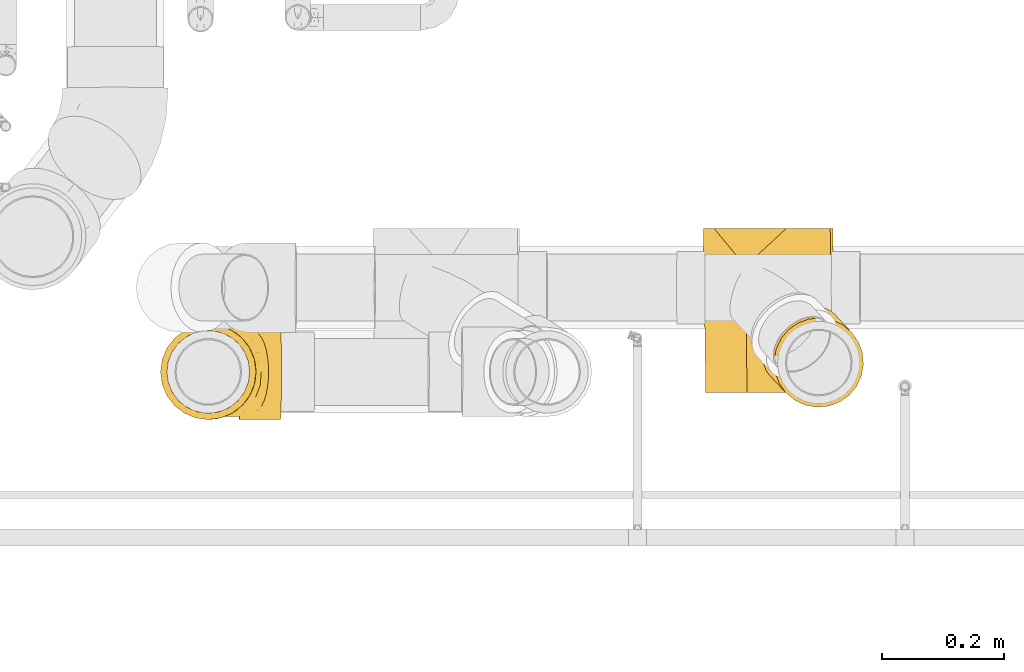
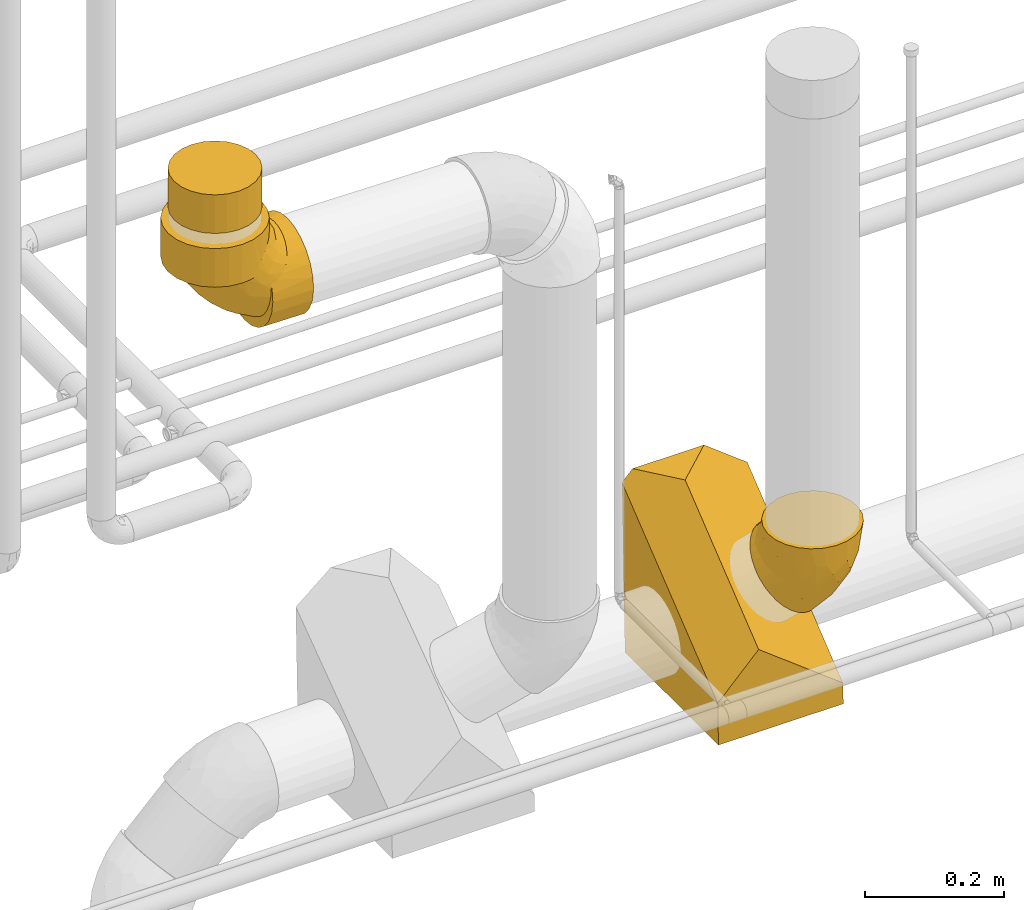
# One storey, part 17 of 156: 4 coverings.
"""IFC2X3 building model written with IfcOpenShell, lengths in millimetres."""

from ifc_helpers import new_model, entity, si_unit, converted_unit, derived_unit, direction, frame, origin_with_axes, place, context, subcontext, project, spatial, open_shell, surface_model, source, transform, mapped, element, save


model = new_model("IFC2X3")

# Units and contexts
model_context = context("Model", 3, precision=0.01, world=frame((0.0, 4.29681676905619e-09, 0.0)), true_north=direction((4.01073788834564e-13, 1.0)))
plan_context = context("Plan", 3, precision=0.01, world=frame((0.0, 4.29681676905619e-09, 0.0)), true_north=direction((4.01073788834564e-13, 1.0)))
body_context = subcontext(model_context, "Body", "Model", "MODEL_VIEW")
ifc_project = project(units=[converted_unit("PLANEANGLEUNIT", "DEGREE", entity("IfcPositiveLengthMeasure", 0.0174532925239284), si_unit("PLANEANGLEUNIT", "RADIAN"), dimensions=[0, 0, 0, 0, 0, 0, 0]), si_unit("AREAUNIT", "SQUARE_METRE"), si_unit("LENGTHUNIT", "METRE", prefix="MILLI"), si_unit("MASSUNIT", "GRAM", prefix="KILO"), si_unit("POWERUNIT", "WATT"), si_unit("PRESSUREUNIT", "PASCAL", prefix="KILO"), si_unit("FORCEUNIT", "NEWTON", prefix="KILO"), si_unit("ELECTRICVOLTAGEUNIT", "VOLT"), si_unit("ELECTRICCURRENTUNIT", "AMPERE"), si_unit("THERMODYNAMICTEMPERATUREUNIT", "DEGREE_CELSIUS"), si_unit("TIMEUNIT", "SECOND"), si_unit("VOLUMEUNIT", "CUBIC_METRE"), derived_unit("LINEARVELOCITYUNIT", [(si_unit("LENGTHUNIT", "METRE"), 1), (si_unit("TIMEUNIT", "SECOND"), -1)]), derived_unit("VOLUMETRICFLOWRATEUNIT", [(si_unit("VOLUMEUNIT", "CUBIC_METRE"), 1), (si_unit("TIMEUNIT", "SECOND"), -1)]), derived_unit("THERMALTRANSMITTANCEUNIT", [(si_unit("POWERUNIT", "WATT"), 1), (si_unit("THERMODYNAMICTEMPERATUREUNIT", "KELVIN"), -1), (si_unit("AREAUNIT", "SQUARE_METRE"), -1)]), derived_unit("SOUNDPRESSUREUNIT", [(si_unit("PRESSUREUNIT", "PASCAL"), 1)])], contexts=[model_context, plan_context])

# Site, building, storey
site_placement = place(None, frame((0.0, -4.29681676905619e-09, 0.0), z_axis=(0.0, 0.0, 1.0), x_axis=(1.0, 0.0, 0.0)))
site = spatial("IfcSite", under=ifc_project, at=site_placement, CompositionType="ELEMENT")
building_placement = place(site_placement, frame((0.0, 4.29681676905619e-09, 0.0), z_axis=(0.0, 0.0, 1.0), x_axis=(1.0, 0.0, 0.0)))
building = spatial("IfcBuilding", under=site, at=building_placement, Name="mc-building", CompositionType="ELEMENT")
storey_placement = place(building_placement, frame((0.0, 0.0, 205200.0), z_axis=(0.0, 0.0, 1.0), x_axis=(1.0, 0.0, 0.0)))
storey = spatial("IfcBuildingStorey", under=building, at=storey_placement, Name="Nivå D + 1,2 m", CompositionType="ELEMENT", Elevation=205200.0)

# Coverings
shared_shape_1 = source(origin_with_axes(), body_context, "Body", "SurfaceModel", [
    surface_model("IfcShellBasedSurfaceModel", [(-17.91303, 88.62571, 14.34271), (-14.77637, 85.85619, 28.13327), (5.52157, 67.93403, 61.11944), (-17.91542, 88.62782, -14.32665), (-18.97223, 89.56094, 0.0), (-2.82927, 75.30744, 51.97971), (-9.68312, 81.35908, 40.8417), (15.04837, 59.5223, 67.90986), (25.38495, 50.39557, 72.0902), (-2.84032, 75.3172, -51.96498), (-14.78178, 85.86096, -28.11586), (-9.69159, 81.36655, -40.82479), (5.5089, 67.94522, -61.10815), (15.03532, 59.53383, -67.90265), (36.12441, 40.91312, -73.5), (25.37291, 50.4062, -72.08701), (36.12441, 40.91312, 73.5), (46.87591, 31.42004, 72.08701), (57.21351, 22.29241, 67.90265), (66.73993, 13.88102, 61.10815), (87.0252, -4.02994, -28.13327), (81.94042, 0.45969, 40.82479), (90.16425, -6.80158, 14.32665), (87.03061, -4.03472, 28.11586), (75.08914, 6.50905, 51.96498), (75.0781, 6.5188, -51.97971), (66.72725, 13.89221, -61.11944), (57.20046, 22.30394, -67.90986), (46.86388, 31.43066, -72.0902), (91.22106, -7.73469, 0.0), (90.16186, -6.79947, -14.34271), (81.93194, 0.46716, -40.8417), (-54.5789, 70.99555, -19.0232), (-54.5789, 63.65287, 36.75), (-54.5789, 73.5, 0.0), (-54.5789, 51.97235, -51.97235), (-54.5789, 63.65287, -36.75), (-54.5789, 36.75, -63.65287), (-54.5789, 19.0232, 70.99555), (-54.5789, 19.0232, -70.99555), (-54.5789, 51.97235, 51.97235), (-54.5789, 70.99555, 19.0232), (-54.5789, 36.75, 63.65287), (-54.5789, 0.0, 73.5), (-54.5789, 0.0, -73.5), (-54.5789, -19.0232, -70.99555), (-54.5789, -36.75, -63.65287), (-54.5789, -73.5, 0.0), (-54.5789, -63.65287, -36.75), (-54.5789, -51.97235, -51.97235), (-54.5789, -70.99555, -19.0232), (-54.5789, -36.75, 63.65287), (-54.5789, -19.0232, 70.99555), (-54.5789, -51.97235, 51.97235), (-54.5789, -63.65287, 36.75), (-54.5789, -70.99555, 19.0232), (-13.67785, -69.15087, 0.0), (4.72805, -60.84875, 21.53178), (25.39407, -56.29798, 0.0), (54.59802, -36.5032, 20.29491), (3.06845, -6.80267, 70.94726), (41.57613, -3.48232, 63.91355), (43.66547, -16.74805, 55.49436), (53.04571, -24.43077, 42.5614), (-20.85007, 4.79602, 73.5), (19.36549, -42.93945, 44.04108), (1.05044, -56.20834, 34.80883), (34.35622, -43.77999, 31.83427), (-21.49455, -26.52926, 67.01198), (-17.35994, -42.15596, 57.04541), (13.75027, -22.74714, 62.81731), (15.7281, -34.20014, 54.43922), (-18.84172, -54.42232, 45.11417), (60.8895, -35.51613, 0.0), (10.20498, 18.80387, 73.5), (-33.25769, 16.43137, 72.09949), (-29.05396, 31.7037, 67.90515), (-17.36496, 68.69842, 46.63532), (-8.60966, 63.96884, 55.87748), (-11.53695, 21.04185, 72.48566), (-27.01023, 83.63097, 0.0), (-25.20525, 79.71721, 21.34079), (-23.99679, 53.19729, 56.82324), (-39.96059, 46.15825, 58.31147), (-44.83668, 68.80659, 28.12723), (-45.81941, 72.76361, 14.89597), (-36.93099, 74.40101, 18.35532), (-29.38666, 70.78235, 34.6544), (-39.5063, 60.15045, 44.74396), (-6.57642, 52.51736, 63.29133), (-0.79585, 37.0792, 70.33875), (-35.04823, 77.70101, 0.0), (-44.81357, 75.6005, 0.0), (-19.80676, 76.87131, 34.65411), (-27.77441, 62.33927, 47.00423), (-29.06879, 31.69947, -67.90515), (-39.95763, 46.15882, -58.31147), (-45.81626, 72.76561, -14.88919), (-36.9234, 74.40668, -18.3452), (-44.82913, 68.808, -28.12723), (-19.70369, 76.96418, -34.6373), (-17.37194, 68.70948, -46.61941), (-39.5002, 60.15196, -44.74397), (-24.00111, 53.2128, -56.81019), (-6.58427, 52.52835, -63.28336), (-35.45277, 14.09772, -72.44642), (-29.39013, 70.79095, -34.63712), (-28.02625, 63.13688, -45.98809), (-25.2076, 79.72181, -21.32394), (-13.37856, 60.5597, -55.78844), (-0.82541, 37.08028, -70.33364), (-15.56538, 21.80912, -72.07308), (10.20498, 18.80387, -73.5), (-20.85007, 4.79602, -73.5), (-22.48751, -26.68408, -67.04028), (-20.56988, -40.14357, -59.10289), (-1.17666, -45.99613, -49.50599), (35.07488, -22.11202, -55.76926), (46.7154, -26.57184, -45.1578), (3.08591, -6.84139, -70.93575), (40.63643, -4.26631, -63.88469), (11.74576, -23.80159, -62.75166), (23.55066, -48.88864, -32.36007), (56.42543, -35.19711, -20.36162), (5.27422, -62.02525, -16.76124), (62.32064, -24.053, -33.74605), (-15.18099, -62.31262, -31.30801)], [open_shell([[[0, 1, 2]], [[0, 3, 4]], [[5, 1, 6]], [[7, 8, 2]], [[2, 8, 0]], [[1, 5, 2]], [[9, 0, 8]], [[10, 3, 11]], [[9, 11, 3]], [[0, 9, 3]], [[12, 9, 13]], [[14, 15, 13]], [[9, 14, 13]], [[8, 14, 9]], [[8, 16, 14]], [[16, 17, 18]], [[18, 19, 16]], [[20, 16, 19]], [[21, 22, 19]], [[23, 22, 21]], [[21, 19, 24]], [[20, 19, 22]], [[25, 26, 27]], [[27, 28, 25]], [[25, 28, 20]], [[29, 30, 20]], [[31, 25, 20]], [[28, 16, 20]], [[22, 29, 20]], [[16, 28, 14]], [[32, 33, 34]], [[35, 32, 36]], [[33, 35, 37]], [[32, 35, 33]], [[38, 37, 39]], [[33, 38, 40]], [[33, 41, 34]], [[40, 38, 42]], [[37, 38, 33]], [[39, 43, 38]], [[39, 44, 43]], [[44, 45, 46]], [[47, 44, 46]], [[47, 46, 48]], [[48, 46, 49]], [[47, 48, 50]], [[43, 51, 52]], [[53, 51, 43]], [[54, 47, 55]], [[47, 54, 53]], [[44, 47, 53]], [[53, 43, 44]], [[55, 56, 57]], [[55, 47, 56]], [[58, 57, 56]], [[58, 59, 57]], [[17, 60, 61]], [[24, 62, 63]], [[23, 21, 63]], [[52, 60, 64]], [[65, 66, 67]], [[68, 69, 70]], [[52, 64, 43]], [[68, 60, 52]], [[69, 51, 53]], [[71, 62, 70]], [[51, 68, 52]], [[66, 65, 72]], [[73, 59, 58]], [[70, 61, 60]], [[19, 61, 62]], [[63, 67, 59]], [[22, 23, 59]], [[22, 73, 29]], [[60, 68, 70]], [[69, 68, 51]], [[65, 71, 72]], [[66, 54, 57]], [[74, 17, 16]], [[60, 74, 64]], [[61, 18, 17]], [[54, 55, 57]], [[60, 17, 74]], [[62, 24, 19]], [[62, 71, 65]], [[72, 69, 53]], [[19, 18, 61]], [[62, 61, 70]], [[53, 54, 72]], [[59, 73, 22]], [[54, 66, 72]], [[63, 65, 67]], [[67, 57, 59]], [[57, 67, 66]], [[59, 23, 63]], [[24, 63, 21]], [[62, 65, 63]], [[70, 69, 71]], [[72, 71, 69]], [[75, 76, 38]], [[43, 64, 75]], [[5, 77, 78]], [[76, 75, 79]], [[0, 80, 81]], [[76, 82, 83]], [[41, 84, 85]], [[34, 41, 85]], [[81, 86, 87]], [[88, 33, 40]], [[87, 86, 84]], [[86, 85, 84]], [[82, 89, 78]], [[76, 90, 89]], [[90, 79, 74]], [[86, 91, 92]], [[1, 93, 6]], [[89, 90, 7]], [[8, 7, 90]], [[8, 74, 16]], [[43, 75, 38]], [[38, 76, 42]], [[77, 94, 82]], [[89, 7, 2]], [[77, 5, 6]], [[40, 42, 83]], [[81, 91, 86]], [[94, 87, 88]], [[83, 88, 40]], [[77, 93, 87]], [[1, 0, 81]], [[81, 87, 93]], [[76, 83, 42]], [[90, 74, 8]], [[88, 83, 82]], [[84, 41, 33]], [[33, 88, 84]], [[87, 84, 88]], [[86, 92, 85]], [[34, 85, 92]], [[6, 93, 77]], [[1, 81, 93]], [[2, 5, 78]], [[76, 89, 82]], [[80, 0, 4]], [[80, 91, 81]], [[79, 75, 64]], [[74, 79, 64]], [[76, 79, 90]], [[87, 94, 77]], [[88, 82, 94]], [[82, 78, 77]], [[2, 78, 89]], [[95, 37, 96]], [[97, 98, 99]], [[100, 11, 101]], [[80, 4, 3]], [[96, 102, 103]], [[13, 104, 12]], [[39, 105, 44]], [[106, 102, 99]], [[39, 37, 95]], [[97, 99, 32]], [[96, 37, 35]], [[103, 104, 95]], [[106, 107, 102]], [[98, 108, 106]], [[3, 10, 108]], [[97, 34, 92]], [[109, 9, 12]], [[13, 110, 104]], [[10, 11, 100]], [[11, 9, 101]], [[36, 102, 35]], [[99, 36, 32]], [[100, 106, 108]], [[109, 12, 104]], [[111, 105, 95]], [[110, 13, 15]], [[15, 14, 112]], [[98, 91, 108]], [[107, 106, 101]], [[112, 110, 15]], [[111, 112, 113]], [[111, 95, 110]], [[102, 96, 35]], [[3, 108, 80]], [[95, 96, 103]], [[106, 99, 98]], [[92, 91, 98]], [[102, 36, 99]], [[34, 97, 32]], [[92, 98, 97]], [[106, 100, 101]], [[10, 100, 108]], [[95, 104, 110]], [[109, 104, 103]], [[108, 91, 80]], [[112, 111, 110]], [[105, 111, 113]], [[44, 105, 113]], [[95, 105, 39]], [[109, 107, 101]], [[103, 102, 107]], [[107, 109, 103]], [[9, 109, 101]], [[46, 114, 115]], [[116, 117, 118]], [[45, 44, 113]], [[119, 120, 121]], [[28, 119, 112]], [[113, 119, 45]], [[117, 120, 26]], [[117, 116, 121]], [[47, 50, 56]], [[119, 114, 45]], [[122, 123, 124]], [[125, 20, 123]], [[116, 48, 49]], [[126, 122, 124]], [[116, 126, 48]], [[45, 114, 46]], [[119, 113, 112]], [[50, 126, 124]], [[112, 14, 28]], [[118, 117, 25]], [[26, 120, 27]], [[56, 50, 124]], [[115, 49, 46]], [[119, 28, 120]], [[126, 50, 48]], [[118, 25, 31]], [[20, 30, 123]], [[125, 118, 31]], [[117, 121, 120]], [[58, 124, 123]], [[30, 29, 73]], [[58, 123, 73]], [[30, 73, 123]], [[122, 118, 125]], [[116, 118, 122]], [[58, 56, 124]], [[116, 122, 126]], [[27, 120, 28]], [[26, 25, 117]], [[119, 121, 114]], [[115, 121, 116]], [[121, 115, 114]], [[49, 115, 116]], [[20, 125, 31]], [[122, 125, 123]]])]),
])
covering_1_placement = place(storey_placement, frame((325465.89291, 462601.38941, 4323.45942999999), z_axis=(0.732870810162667, 0.680367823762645, 0.0), x_axis=(0.0, 0.0, -1.0)))
element("IfcCovering", 1, at=covering_1_placement, inside=storey, Name="BI17T - Cellegummi 13 mm SPV fett", PredefinedType="INSULATION", context=body_context, shape_type="MappedRepresentation", body=[
    mapped(shared_shape_1, transform((0.0, 0.0, 0.0), scale=1.0)),
])
shared_shape_2 = source(origin_with_axes(), body_context, "Body", "SurfaceModel", [
    surface_model("IfcShellBasedSurfaceModel", [(-71.94654, -92.21569, 204.98934), (-71.94654, -92.21569, -147.39441), (-2.63553, -145.71314, -102.40648), (-2.63553, -145.71314, 168.00766), (-54.09778, -105.99219, 216.5745), (136.02815, -61.08077, 178.80685), (64.93187, -104.47386, 215.29769), (136.02815, -61.08077, -173.57691), (136.02815, 140.67473, 9.14336), (136.02815, -32.90589, -197.27017), (-71.94654, 138.02183, 11.37427), (-71.94654, -35.55879, -195.03926)], [open_shell([[[0, 1, 2]], [[0, 3, 4]], [[3, 0, 2]], [[3, 2, 5]], [[3, 5, 6]], [[5, 2, 7]], [[5, 7, 8]], [[9, 8, 7]], [[6, 0, 4]], [[0, 6, 5]], [[5, 8, 10]], [[5, 10, 0]], [[4, 3, 6]], [[2, 1, 7]], [[7, 11, 9]], [[11, 7, 1]], [[8, 9, 10]], [[11, 10, 9]], [[1, 0, 10]], [[10, 11, 1]]])]),
])
covering_2_placement = place(storey_placement, frame((325351.36301, 462724.75736, 4174.82712), z_axis=(-0.0107249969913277, 0.765351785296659, 0.643522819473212), x_axis=(0.999861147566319, -1.20961537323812e-07, 0.0166639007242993)))
element("IfcCovering", 2, at=covering_2_placement, inside=storey, Name="BI17T - Cellegummi 13 mm SPV fett", PredefinedType="INSULATION", context=body_context, shape_type="MappedRepresentation", body=[
    mapped(shared_shape_2, transform((0.0, 0.0, 0.0), scale=1.0)),
])
shared_shape_3 = source(origin_with_axes(), body_context, "Body", "SurfaceModel", [
    surface_model("IfcShellBasedSurfaceModel", [(-51.00014, 0.0, -78.5), (-51.00014, 14.36508, -77.17444), (-51.00014, 5.6383, -72.35703), (-51.00014, 20.91504, -73.5), (-51.00014, 24.56162, -73.43881), (-51.00014, -9.27174, -68.76607), (-51.00014, -20.31729, -75.82518), (-51.00014, 28.2042, -73.25826), (-51.00014, -23.31083, -62.59185), (-51.00014, -39.25, -67.983), (-51.00014, -35.91477, -53.8583), (-51.00014, -55.50788, -55.50788), (-51.00014, -46.49952, -42.76725), (-51.00014, -67.983, -39.25), (-51.00014, -54.51871, -29.70312), (-51.00014, -59.52523, -15.21649), (-51.00014, -75.82518, -20.31729), (-51.00014, -78.5, 0.0), (-51.00014, -61.22582, 0.0), (-51.00014, -23.31083, 62.59185), (-51.00014, -9.27174, 68.76607), (-51.00014, -20.31729, 75.82518), (-51.00014, 5.6383, 72.35703), (-51.00014, 0.0, 78.5), (-51.00014, 20.91504, 73.5), (-51.00014, 24.56162, 73.43881), (-51.00014, 14.36508, 77.17444), (-51.00014, 28.2042, 73.25826), (-51.00014, -39.25, 67.983), (-51.00014, -59.52523, 15.21649), (-51.00014, -54.51871, 29.70312), (-51.00014, -75.82518, 20.31729), (-51.00014, -67.983, 39.25), (-51.00014, -35.91477, 53.8583), (-51.00014, -55.50788, 55.50788), (-51.00014, -46.49952, 42.76725), (-119.00014, 20.31729, 75.82518), (-119.00014, -20.31729, 75.82518), (-119.00014, 0.0, 78.5), (-119.00014, 55.50788, 55.50788), (-119.00014, 39.25, 67.983), (-119.00014, 67.983, 39.25), (-119.00014, 75.82518, 20.31729), (-119.00014, -39.25, 67.983), (-119.00014, -78.5, 0.0), (-119.00014, -55.50788, 55.50788), (-119.00014, -75.82518, 20.31729), (-119.00014, -67.983, 39.25), (-119.00014, 78.5, 0.0), (-119.00014, -67.983, -39.25), (-119.00014, 75.82518, -20.31729), (-119.00014, 39.25, -67.983), (-119.00014, 67.983, -39.25), (-119.00014, 20.31729, -75.82518), (-119.00014, 55.50788, -55.50788), (-119.00014, -39.25, -67.983), (-119.00014, -55.50788, -55.50788), (-119.00014, -75.82518, -20.31729), (-119.00014, 0.0, -78.5), (-119.00014, -20.31729, -75.82518), (-97.38869, 77.47891, 12.62014), (-119.00014, 77.16259, 10.15865), (-91.13514, 63.02644, 46.79656), (-96.18432, 74.45802, 24.86469), (-97.78694, 78.5, 0.0), (-94.13395, 69.56634, 36.36996), (-86.97192, 55.18462, 55.82927), (-81.2498, 46.5999, 63.17198), (-73.40421, 38.25749, 68.54644), (-63.0917, 31.69435, 71.81726), (-73.40421, 38.25749, -68.54644), (-81.2498, 46.5999, -63.17198), (-97.38869, 77.47891, -12.62014), (-119.00014, 77.16259, -10.15865), (-63.0917, 31.69435, -71.81726), (-91.13514, 63.02644, -46.79656), (-96.18432, 74.45802, -24.86469), (-86.97192, 55.18462, -55.82927), (-94.13395, 69.56634, -36.36996), (56.35006, 50.06805, -55.50788), (47.34295, 50.21817, -42.76725), (36.75967, 50.39456, -53.8583), (68.82344, 49.86017, -39.25), (40.09443, 50.33898, -67.983), (24.15747, 50.6046, -62.59185), (76.66453, 49.72948, -20.31729), (55.36102, 50.08454, -29.70312), (60.36685, 50.00111, -15.21649), (79.33898, 49.6849, 0.0), (62.06721, 49.97277, 0.0), (-4.78763, 51.08702, -72.35703), (-13.5132, 51.23244, -77.17444), (0.84988, 50.99305, -78.5), (-20.06225, 51.34159, -73.5), (-23.70832, 51.40236, -73.43881), (21.16436, 50.65448, -75.82518), (10.12034, 50.83855, -68.76607), (-27.3504, 51.46306, -73.25826), (76.66453, 49.72948, 20.31729), (60.36685, 50.00111, 15.21649), (55.36102, 50.08454, 29.70312), (68.82344, 49.86017, 39.25), (56.35006, 50.06805, 55.50788), (47.34295, 50.21817, 42.76725), (36.75967, 50.39456, 53.8583), (40.09443, 50.33898, 67.983), (24.15747, 50.6046, 62.59185), (10.12034, 50.83855, 68.76607), (21.16436, 50.65448, 75.82518), (0.84988, 50.99305, 78.5), (-4.78763, 51.08702, 72.35703), (-13.5132, 51.23244, 77.17444), (-23.70832, 51.40236, 73.43881), (-20.06225, 51.34159, 73.5), (-27.3504, 51.46306, 73.25826), (22.29753, 118.64504, 75.82518), (-18.33141, 119.32219, 75.82518), (1.98306, 118.98362, 78.5), (57.48323, 118.05861, 55.50788), (41.22761, 118.32954, 67.983), (69.95661, 117.85072, 39.25), (77.7977, 117.72004, 20.31729), (-53.51711, 119.90861, 55.50788), (-37.26149, 119.63769, 67.983), (-53.51711, 119.90861, -55.50788), (-73.83159, 120.24719, 20.31729), (-65.99049, 120.11651, 39.25), (-76.50604, 120.29177, 0.0), (77.7977, 117.72004, -20.31729), (57.48323, 118.05861, -55.50788), (69.95661, 117.85072, -39.25), (41.22761, 118.32954, -67.983), (22.29753, 118.64504, -75.82518), (-37.26149, 119.63769, -67.983), (-73.83159, 120.24719, -20.31729), (-65.99049, 120.11651, -39.25), (1.98306, 118.98362, -78.5), (-18.33141, 119.32219, -75.82518), (80.47216, 117.67547, 0.0), (-37.02895, 74.03155, 68.54644), (-45.23946, 82.01507, 63.17198), (-75.84523, 98.6663, 12.62014), (-75.16881, 120.26948, 10.15865), (-30.63857, 63.6111, 71.81726), (-61.49898, 92.17278, 46.79656), (-76.85954, 99.08151, 0.0), (-72.84484, 97.41175, 24.86469), (-53.72763, 87.87946, 55.82927), (-67.988, 95.28016, 36.36996), (-75.84523, 98.6663, -12.62014), (-75.16881, 120.26948, -10.15865), (-72.84484, 97.41175, -24.86469), (-61.49898, 92.17278, -46.79656), (-67.988, 95.28016, -36.36996), (-53.72763, 87.87946, -55.82927), (-45.23946, 82.01507, -63.17198), (-37.02895, 74.03155, -68.54644), (-30.63857, 63.6111, -71.81726), (6.81654, -6.9311, 44.58514), (-17.26951, -35.63847, 32.80182), (12.68504, -12.89823, 30.65447), (-21.49369, -47.29362, 0.0), (-9.47049, -37.03877, 17.91349), (5.26843, -28.62477, 0.0), (37.19144, 8.85194, 17.91349), (15.8884, -16.15543, 17.56295), (28.533, -5.74472, 0.0), (19.03087, 25.53367, 56.65112), (-17.81797, -25.77278, 46.06988), (0.55309, -0.56239, 54.33194), (-25.84726, -18.60272, 56.65112), (-13.39553, 2.25168, 62.9668), (-16.72377, 17.00482, 69.16775), (26.06612, 17.386, 46.06988), (-34.15611, 34.73012, 73.5), (47.64523, 20.70258, 0.0), (35.92129, 16.67321, 32.80183), (6.39197, 26.17713, 63.96237), (-46.76117, 47.54702, 71.26773), (-60.14393, 59.43965, 64.17458), (-80.37919, 82.4866, 31.39459), (-45.34117, 25.55639, 73.5), (-39.6822, 30.19775, 73.5), (-29.53228, 40.17992, 73.5), (-24.79726, 45.76076, 73.5), (-71.25413, 72.4516, 51.02036), (-85.6936, 87.13373, 0.0), (-88.5504, 81.26764, 19.22354), (-81.58464, 88.96878, 15.95955), (-84.03522, 84.04713, -22.01024), (-76.45028, 77.73506, -42.00034), (-64.94158, 78.20281, -51.8933), (-73.32821, 65.87713, -54.40991), (-59.41001, 60.40843, -64.07118), (-46.76117, 47.54702, -71.26773), (-24.79726, 45.76076, -73.5), (-29.53228, 40.17992, -73.5), (-45.34117, 25.55639, -73.5), (-34.15611, 34.73012, -73.5), (-39.6822, 30.19775, -73.5), (-17.81797, -25.77278, -46.06988), (26.06612, 17.386, -46.06988), (19.03087, 25.53367, -56.65112), (-13.39553, 2.25168, -62.9668), (0.55309, -0.56239, -54.33194), (-25.84726, -18.60272, -56.65112), (-16.72377, 17.00482, -69.16775), (6.39197, 26.17713, -63.96237), (35.92129, 16.67321, -32.80183), (-17.26951, -35.63847, -32.80182), (6.81654, -6.9311, -44.58514), (37.19144, 8.85194, -17.91349), (15.8884, -16.15543, -17.56295), (12.68504, -12.89823, -30.65447), (-9.47049, -37.03877, -17.91349)], [open_shell([[[0, 1, 2]], [[3, 1, 4]], [[5, 6, 0]], [[2, 1, 3]], [[7, 4, 1]], [[5, 8, 6]], [[2, 5, 0]], [[6, 8, 9]], [[9, 10, 11]], [[10, 9, 8]], [[11, 12, 13]], [[12, 11, 10]], [[14, 15, 16]], [[14, 16, 13]], [[17, 16, 15]], [[17, 15, 18]], [[14, 13, 12]], [[19, 20, 21]], [[22, 23, 20]], [[24, 25, 26]], [[23, 21, 20]], [[22, 26, 23]], [[25, 27, 26]], [[22, 24, 26]], [[19, 21, 28]], [[29, 30, 31]], [[31, 17, 29]], [[30, 32, 31]], [[17, 18, 29]], [[33, 28, 34]], [[28, 33, 19]], [[32, 35, 34]], [[35, 32, 30]], [[34, 35, 33]], [[36, 37, 38]], [[39, 36, 40]], [[39, 41, 42]], [[36, 39, 37]], [[42, 37, 39]], [[43, 44, 45]], [[44, 43, 37]], [[45, 46, 47]], [[46, 45, 44]], [[37, 42, 44]], [[42, 48, 44]], [[49, 44, 50]], [[51, 50, 52]], [[51, 53, 50]], [[51, 52, 54]], [[49, 50, 53]], [[49, 55, 56]], [[57, 44, 49]], [[55, 58, 59]], [[55, 49, 53]], [[58, 55, 53]], [[44, 48, 50]], [[60, 61, 42]], [[41, 39, 62]], [[63, 42, 41]], [[64, 48, 61]], [[65, 63, 41]], [[62, 65, 41]], [[60, 42, 63]], [[39, 66, 62]], [[66, 39, 67]], [[68, 40, 36]], [[40, 68, 67]], [[39, 40, 67]], [[26, 36, 38]], [[64, 61, 60]], [[68, 36, 69]], [[69, 26, 27]], [[36, 26, 69]], [[38, 23, 26]], [[43, 45, 28]], [[23, 38, 21]], [[37, 28, 21]], [[28, 37, 43]], [[38, 37, 21]], [[45, 34, 28]], [[32, 47, 46]], [[31, 46, 44]], [[34, 47, 32]], [[32, 46, 31]], [[44, 17, 31]], [[47, 34, 45]], [[16, 57, 49]], [[13, 49, 56]], [[17, 44, 16]], [[16, 44, 57]], [[49, 13, 16]], [[56, 11, 13]], [[9, 55, 59]], [[6, 59, 58]], [[11, 55, 9]], [[9, 59, 6]], [[58, 0, 6]], [[55, 11, 56]], [[1, 58, 53]], [[53, 51, 70]], [[71, 51, 54]], [[71, 70, 51]], [[0, 58, 1]], [[72, 50, 73]], [[74, 7, 1]], [[74, 1, 53]], [[70, 74, 53]], [[75, 54, 52]], [[73, 48, 64]], [[52, 50, 76]], [[64, 72, 73]], [[75, 77, 54]], [[76, 78, 52]], [[72, 76, 50]], [[75, 52, 78]], [[54, 77, 71]], [[79, 80, 81]], [[80, 79, 82]], [[83, 81, 84]], [[81, 83, 79]], [[82, 85, 86]], [[87, 86, 85]], [[88, 89, 87]], [[87, 85, 88]], [[82, 86, 80]], [[90, 91, 92]], [[91, 93, 94]], [[90, 93, 91]], [[92, 95, 96]], [[84, 96, 95]], [[94, 97, 91]], [[96, 90, 92]], [[95, 83, 84]], [[88, 98, 99]], [[100, 99, 98]], [[98, 101, 100]], [[101, 102, 103]], [[102, 104, 103]], [[104, 102, 105]], [[104, 105, 106]], [[101, 103, 100]], [[107, 106, 108]], [[107, 109, 110]], [[111, 110, 109]], [[112, 113, 111]], [[113, 110, 111]], [[112, 111, 114]], [[109, 107, 108]], [[106, 105, 108]], [[99, 89, 88]], [[115, 116, 117]], [[118, 115, 119]], [[118, 120, 121]], [[116, 115, 118]], [[116, 118, 121]], [[116, 122, 123]], [[122, 116, 124]], [[122, 125, 126]], [[125, 122, 127]], [[122, 124, 127]], [[128, 116, 121]], [[124, 116, 128]], [[129, 128, 130]], [[129, 131, 132]], [[129, 132, 128]], [[133, 128, 132]], [[134, 124, 135]], [[127, 124, 134]], [[133, 136, 137]], [[133, 124, 128]], [[136, 133, 132]], [[121, 138, 128]], [[98, 138, 121]], [[88, 138, 98]], [[102, 101, 120]], [[101, 98, 121]], [[120, 101, 121]], [[120, 118, 102]], [[105, 119, 115]], [[108, 115, 117]], [[102, 119, 105]], [[105, 115, 108]], [[117, 109, 108]], [[119, 102, 118]], [[111, 117, 116]], [[116, 123, 139]], [[140, 123, 122]], [[140, 139, 123]], [[109, 117, 111]], [[141, 125, 142]], [[143, 114, 111]], [[143, 111, 116]], [[139, 143, 116]], [[144, 122, 126]], [[142, 127, 145]], [[126, 125, 146]], [[145, 141, 142]], [[144, 147, 122]], [[146, 148, 126]], [[141, 146, 125]], [[144, 126, 148]], [[122, 147, 140]], [[149, 150, 134]], [[151, 134, 135]], [[152, 135, 124]], [[145, 127, 150]], [[153, 151, 135]], [[152, 153, 135]], [[149, 134, 151]], [[124, 154, 152]], [[154, 124, 155]], [[156, 133, 137]], [[133, 156, 155]], [[124, 133, 155]], [[91, 137, 136]], [[145, 150, 149]], [[156, 137, 157]], [[157, 91, 97]], [[137, 91, 157]], [[136, 92, 91]], [[95, 132, 131]], [[83, 131, 129]], [[136, 132, 92]], [[92, 132, 95]], [[131, 83, 95]], [[129, 79, 83]], [[82, 130, 128]], [[85, 128, 138]], [[79, 130, 82]], [[82, 128, 85]], [[138, 88, 85]], [[130, 79, 129]], [[158, 159, 160]], [[29, 18, 161]], [[162, 161, 163]], [[164, 165, 166]], [[104, 106, 167]], [[162, 30, 29]], [[35, 159, 168]], [[29, 161, 162]], [[168, 169, 170]], [[170, 19, 33]], [[19, 170, 171]], [[100, 164, 99]], [[19, 171, 20]], [[172, 22, 20]], [[169, 158, 173]], [[159, 35, 30]], [[22, 174, 24]], [[107, 110, 172]], [[160, 165, 164]], [[175, 99, 164]], [[173, 104, 167]], [[176, 103, 173]], [[160, 162, 165]], [[104, 173, 103]], [[176, 173, 158]], [[99, 175, 89]], [[106, 107, 177]], [[173, 167, 169]], [[160, 159, 162]], [[167, 106, 177]], [[174, 110, 113]], [[22, 172, 174]], [[160, 164, 176]], [[33, 35, 168]], [[174, 172, 110]], [[177, 171, 169]], [[169, 167, 177]], [[171, 170, 169]], [[177, 172, 171]], [[168, 170, 33]], [[20, 171, 172]], [[164, 166, 175]], [[172, 177, 107]], [[158, 169, 168]], [[30, 162, 159]], [[164, 100, 176]], [[103, 176, 100]], [[162, 163, 165]], [[166, 165, 163]], [[159, 158, 168]], [[176, 158, 160]], [[68, 178, 179]], [[144, 148, 180]], [[27, 178, 69]], [[27, 25, 181]], [[27, 182, 174]], [[178, 27, 174]], [[183, 184, 114]], [[139, 178, 143]], [[185, 66, 179]], [[62, 66, 185]], [[68, 179, 67]], [[186, 64, 187]], [[180, 65, 185]], [[65, 62, 185]], [[25, 24, 181]], [[188, 187, 180]], [[187, 64, 60]], [[146, 141, 188]], [[146, 188, 180]], [[114, 178, 174]], [[183, 114, 174]], [[112, 184, 113]], [[67, 179, 66]], [[181, 182, 27]], [[140, 147, 179]], [[140, 179, 139]], [[139, 179, 178]], [[179, 147, 185]], [[188, 145, 186]], [[188, 141, 145]], [[114, 184, 112]], [[180, 187, 65]], [[144, 180, 185]], [[178, 68, 69]], [[60, 63, 187]], [[148, 146, 180]], [[144, 185, 147]], [[186, 187, 188]], [[143, 178, 114]], [[187, 63, 65]], [[76, 189, 78]], [[189, 186, 149]], [[78, 189, 190]], [[72, 64, 186]], [[191, 152, 154]], [[72, 189, 76]], [[186, 189, 72]], [[190, 192, 75]], [[193, 194, 70]], [[192, 193, 71]], [[152, 191, 190]], [[191, 192, 190]], [[195, 196, 97]], [[7, 74, 194]], [[197, 3, 4]], [[94, 93, 195]], [[7, 198, 199]], [[71, 77, 192]], [[70, 71, 193]], [[191, 154, 155]], [[151, 153, 189]], [[75, 192, 77]], [[153, 152, 190]], [[156, 194, 193]], [[190, 189, 153]], [[151, 189, 149]], [[155, 193, 191]], [[75, 78, 190]], [[193, 192, 191]], [[94, 195, 97]], [[7, 194, 198]], [[199, 197, 7]], [[97, 196, 198]], [[194, 97, 198]], [[70, 194, 74]], [[7, 197, 4]], [[97, 194, 157]], [[156, 157, 194]], [[156, 193, 155]], [[149, 186, 145]], [[10, 200, 12]], [[201, 202, 81]], [[203, 204, 205]], [[203, 205, 8]], [[200, 205, 204]], [[5, 206, 203]], [[206, 96, 207]], [[206, 2, 198]], [[161, 18, 15]], [[80, 208, 201]], [[96, 84, 207]], [[209, 200, 210]], [[211, 212, 213]], [[86, 87, 211]], [[84, 81, 202]], [[163, 161, 214]], [[206, 207, 203]], [[210, 208, 213]], [[2, 3, 198]], [[207, 204, 203]], [[198, 93, 90]], [[81, 80, 201]], [[213, 214, 209]], [[206, 5, 2]], [[10, 8, 205]], [[204, 210, 200]], [[208, 80, 86]], [[202, 204, 207]], [[210, 204, 201]], [[202, 201, 204]], [[166, 163, 212]], [[213, 208, 211]], [[212, 214, 213]], [[200, 209, 12]], [[87, 89, 175]], [[14, 214, 15]], [[161, 15, 214]], [[211, 175, 166]], [[90, 96, 206]], [[200, 10, 205]], [[84, 202, 207]], [[90, 206, 198]], [[8, 5, 203]], [[87, 175, 211]], [[86, 211, 208]], [[214, 14, 209]], [[12, 209, 14]], [[166, 212, 211]], [[163, 214, 212]], [[208, 210, 201]], [[209, 210, 213]]])]),
])
covering_3_placement = place(storey_placement, frame((324461.67326, 462586.08797, 5152.15883999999), z_axis=(0.0, 1.0, 0.0), x_axis=(-0.999861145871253, 0.0, 0.0166640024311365)))
element("IfcCovering", 3, at=covering_3_placement, inside=storey, Name="BI17T - Cellegummi 13 mm SPV fett", PredefinedType="INSULATION", context=body_context, shape_type="MappedRepresentation", body=[
    mapped(shared_shape_3, transform((0.0, 0.0, 0.0), scale=1.0)),
])
shared_shape_4 = source(origin_with_axes(), body_context, "Body", "SurfaceModel", [
    surface_model("IfcShellBasedSurfaceModel", [(68.0, -48.08326, -48.08326), (68.0, -65.68295, -17.5997), (68.0, -58.88973, -34.0), (68.0, 34.0, 58.88973), (68.0, 17.5997, 65.68295), (68.0, 0.0, 68.0), (68.0, -65.68295, 17.5997), (68.0, -48.08326, 48.08326), (68.0, -58.88973, 34.0), (0.0, 0.0, 68.0), (0.0, 17.5997, 65.68295), (0.0, 34.0, 58.88973), (0.0, 48.08326, 48.08326), (0.0, -48.08326, 48.08326), (0.0, -65.68295, 17.5997), (0.0, -58.88973, 34.0), (0.0, -65.68295, -17.5997), (0.0, -68.0, 0.0), (0.0, -48.08326, -48.08326), (0.0, -58.88973, -34.0), (0.0, 65.68295, -17.5997), (0.0, 65.68295, 17.5997), (0.0, 68.0, 0.0), (68.0, 65.68295, 17.5997), (68.0, 68.0, 0.0), (68.0, 48.08326, 48.08326), (68.0, 58.88973, 34.0), (0.0, 58.88973, 34.0), (68.0, -34.0, 58.88973), (0.0, -34.0, 58.88973), (0.0, -17.5997, 65.68295), (68.0, -17.5997, 65.68295), (68.0, -68.0, 0.0), (68.0, -34.0, -58.88973), (0.0, -34.0, -58.88973), (0.0, -17.5997, -65.68295), (68.0, -17.5997, -65.68295), (0.0, 0.0, -68.0), (68.0, 0.0, -68.0), (68.0, 17.5997, -65.68295), (0.0, 17.5997, -65.68295), (0.0, 34.0, -58.88973), (68.0, 34.0, -58.88973), (0.0, 48.08326, -48.08326), (68.0, 48.08326, -48.08326), (68.0, 58.88973, -34.0), (0.0, 58.88973, -34.0), (68.0, 65.68295, -17.5997)], [open_shell([[[0, 1, 2]], [[3, 4, 5]], [[6, 7, 8]], [[9, 10, 11]], [[9, 11, 12]], [[13, 14, 15]], [[14, 16, 17]], [[16, 18, 19]], [[20, 21, 22]], [[22, 21, 23]], [[24, 22, 23]], [[25, 26, 27]], [[26, 23, 21]], [[27, 26, 21]], [[27, 12, 25]], [[3, 11, 10]], [[4, 10, 9]], [[25, 11, 3]], [[3, 10, 4]], [[9, 5, 4]], [[11, 25, 12]], [[28, 29, 13]], [[5, 30, 31]], [[30, 5, 9]], [[31, 30, 29]], [[29, 28, 31]], [[13, 7, 28]], [[8, 15, 14]], [[6, 14, 17]], [[7, 15, 8]], [[8, 14, 6]], [[17, 32, 6]], [[15, 7, 13]], [[1, 16, 19]], [[2, 19, 18]], [[17, 16, 32]], [[32, 16, 1]], [[19, 2, 1]], [[18, 0, 2]], [[33, 34, 35]], [[36, 35, 37]], [[0, 34, 33]], [[33, 35, 36]], [[37, 38, 36]], [[34, 0, 18]], [[39, 40, 41]], [[42, 41, 43]], [[37, 40, 38]], [[38, 40, 39]], [[41, 42, 39]], [[43, 44, 42]], [[45, 46, 20]], [[47, 20, 22]], [[44, 46, 45]], [[45, 20, 47]], [[22, 24, 47]], [[46, 44, 43]], [[23, 26, 25]], [[12, 27, 21]], [[5, 31, 6]], [[39, 42, 44]], [[39, 44, 45]], [[38, 45, 47]], [[45, 38, 39]], [[32, 1, 47]], [[38, 33, 36]], [[33, 38, 1]], [[1, 0, 33]], [[38, 47, 1]], [[47, 24, 32]], [[32, 23, 25]], [[25, 3, 32]], [[5, 6, 3]], [[6, 32, 3]], [[7, 31, 28]], [[31, 7, 6]], [[23, 32, 24]], [[12, 21, 9]], [[30, 9, 16]], [[30, 13, 29]], [[13, 30, 14]], [[14, 30, 16]], [[21, 20, 9]], [[16, 9, 20]], [[46, 16, 20]], [[43, 41, 40]], [[43, 16, 46]], [[37, 43, 40]], [[18, 16, 34]], [[34, 37, 35]], [[37, 34, 16]], [[16, 43, 37]]])]),
])
covering_4_placement = place(storey_placement, frame((324461.67326, 462586.08797, 5290.49747), z_axis=(0.0, 1.0, 0.0), x_axis=(0.0, 0.0, 1.0)))
element("IfcCovering", 4, at=covering_4_placement, inside=storey, Name="BI17T - Cellegummi 13 mm SPV fett", PredefinedType="INSULATION", context=body_context, shape_type="MappedRepresentation", body=[
    mapped(shared_shape_4, transform((0.0, 0.0, 0.0), scale=1.0)),
])

save(model, "model.ifc")
